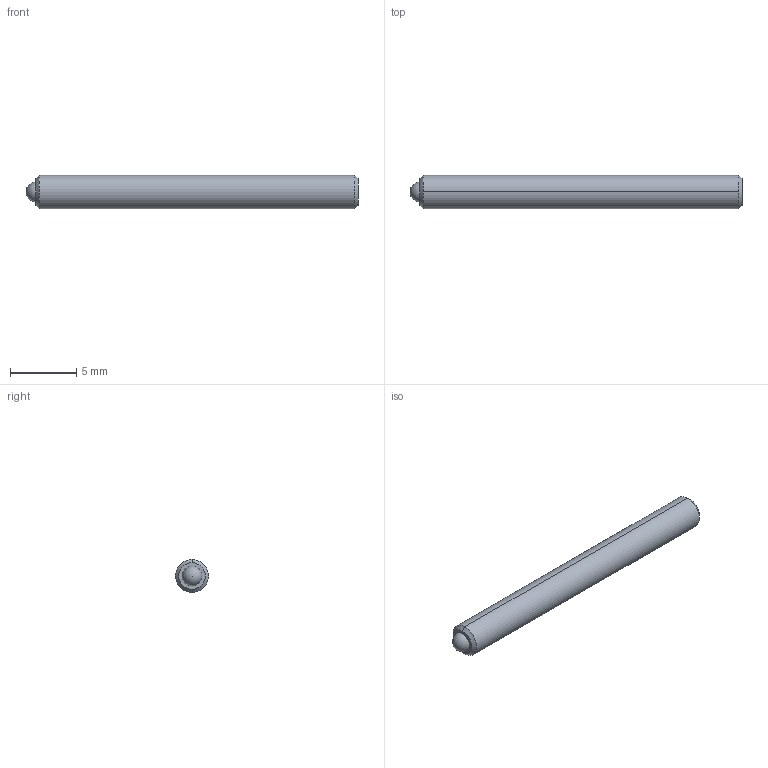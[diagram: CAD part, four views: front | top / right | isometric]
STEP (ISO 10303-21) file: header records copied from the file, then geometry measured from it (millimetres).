
FILE_DESCRIPTION (( 'STEP AP214' ), '1' );
FILE_NAME ('TS25-20-25.STEP', '2015-07-23T13:14:07', ( 'workpc' ), ( 'Microsoft' ), 'SwSTEP 2.0', 'SolidWorks 2013', '' );
FILE_SCHEMA (( 'AUTOMOTIVE_DESIGN' ));
Length unit declared in the file: millimetre
Products named in the file (1): TS25-20-25
Bounding box: 25 x 2.5 x 2.5 mm (x, y, z)
Volume: 115 mm3; surface area: 219 mm2
Topology: 2 solids, 2 shells, 20 faces, 45 edges, 29 vertices
Faces by surface type: plane 10, cylinder 4, cone 4, sphere 2
Entity records: 587 total; most frequent: DIRECTION 96, CARTESIAN_POINT 87, ORIENTED_EDGE 80, EDGE_CURVE 40, AXIS2_PLACEMENT_3D 35, VECTOR 26, LINE 26, VERTEX_POINT 26
